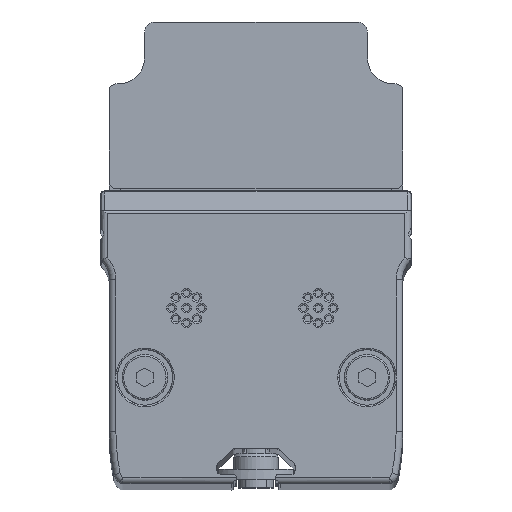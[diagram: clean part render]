
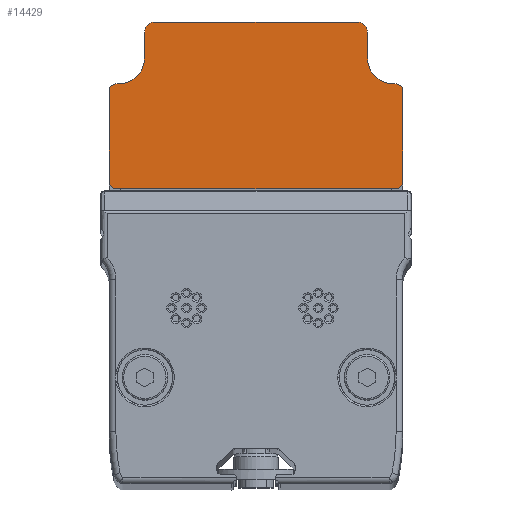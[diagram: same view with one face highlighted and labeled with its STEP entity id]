
A CAD part, top view. The second image highlights one B-rep face of the part: STEP entity #14429.
In plain terms, the highlighted planar face has unit normal (0, 0, 1).
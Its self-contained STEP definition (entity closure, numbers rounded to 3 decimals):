
#48 = VERTEX_POINT ( 'NONE', #30250 ) ;
#378 = CARTESIAN_POINT ( 'NONE',  ( -21.5, 38.9, 504. ) ) ;
#515 = DIRECTION ( 'NONE',  ( 1., 0., 0. ) ) ;
#731 = DIRECTION ( 'NONE',  ( -1., 0., 0. ) ) ;
#820 = VERTEX_POINT ( 'NONE', #19735 ) ;
#1069 = VERTEX_POINT ( 'NONE', #16534 ) ;
#1152 = ORIENTED_EDGE ( 'NONE', *, *, #23504, .T. ) ;
#1811 = VERTEX_POINT ( 'NONE', #6976 ) ;
#2703 = EDGE_CURVE ( 'NONE', #8934, #1811, #29946, .T. ) ;
#2734 = LINE ( 'NONE', #18293, #21234 ) ;
#2840 = VECTOR ( 'NONE', #27940, 1000. ) ;
#3180 = LINE ( 'NONE', #8148, #17644 ) ;
#3193 = EDGE_CURVE ( 'NONE', #20286, #4802, #18379, .T. ) ;
#3320 = CARTESIAN_POINT ( 'NONE',  ( -21.5, 23.8, 504. ) ) ;
#3439 = VECTOR ( 'NONE', #731, 1000. ) ;
#3889 = DIRECTION ( 'NONE',  ( -1., 0., 0. ) ) ;
#4584 = VERTEX_POINT ( 'NONE', #30027 ) ;
#4801 = EDGE_CURVE ( 'NONE', #11047, #7369, #28688, .T. ) ;
#4802 = VERTEX_POINT ( 'NONE', #26376 ) ;
#5551 = ORIENTED_EDGE ( 'NONE', *, *, #27766, .T. ) ;
#5598 = LINE ( 'NONE', #13543, #11995 ) ;
#5804 = DIRECTION ( 'NONE',  ( 0., 0., -1. ) ) ;
#6976 = CARTESIAN_POINT ( 'NONE',  ( 17.1, 46.8, 504. ) ) ;
#7369 = VERTEX_POINT ( 'NONE', #16178 ) ;
#7852 = CARTESIAN_POINT ( 'NONE',  ( 21.5, 37.9, 504. ) ) ;
#7928 = EDGE_LOOP ( 'NONE', ( #31942, #28934, #10491, #18618, #28007, #1152, #11612, #15065, #15520, #25418, #21659, #27385, #9660, #12638, #5551, #30959 ) ) ;
#8148 = CARTESIAN_POINT ( 'NONE',  ( 22.5, 0., 504. ) ) ;
#8175 = VERTEX_POINT ( 'NONE', #24157 ) ;
#8282 = EDGE_CURVE ( 'NONE', #1811, #14167, #10064, .T. ) ;
#8337 = PLANE ( 'NONE',  #16950 ) ;
#8416 = CARTESIAN_POINT ( 'NONE',  ( 0., 38.9, 504. ) ) ;
#8934 = VERTEX_POINT ( 'NONE', #13122 ) ;
#9660 = ORIENTED_EDGE ( 'NONE', *, *, #22075, .T. ) ;
#9811 = LINE ( 'NONE', #19921, #16010 ) ;
#9985 = CARTESIAN_POINT ( 'NONE',  ( -17.1, 42.9, 504. ) ) ;
#10042 = CARTESIAN_POINT ( 'NONE',  ( 22.5, 23.8, 504. ) ) ;
#10064 = LINE ( 'NONE', #27786, #2840 ) ;
#10491 = ORIENTED_EDGE ( 'NONE', *, *, #32657, .F. ) ;
#11047 = VERTEX_POINT ( 'NONE', #24529 ) ;
#11130 = CARTESIAN_POINT ( 'NONE',  ( 0., 0., 504. ) ) ;
#11575 = DIRECTION ( 'NONE',  ( 1., 0., 0. ) ) ;
#11612 = ORIENTED_EDGE ( 'NONE', *, *, #28636, .T. ) ;
#11914 = DIRECTION ( 'NONE',  ( 0., 0., 1. ) ) ;
#11995 = VECTOR ( 'NONE', #25775, 1000. ) ;
#12638 = ORIENTED_EDGE ( 'NONE', *, *, #13676, .F. ) ;
#13122 = CARTESIAN_POINT ( 'NONE',  ( 15.5, 48.4, 504. ) ) ;
#13173 = VERTEX_POINT ( 'NONE', #9985 ) ;
#13295 = DIRECTION ( 'NONE',  ( 0., 0., 1. ) ) ;
#13377 = EDGE_CURVE ( 'NONE', #13699, #21514, #13467, .T. ) ;
#13467 = CIRCLE ( 'NONE', #15067, 1. ) ;
#13543 = CARTESIAN_POINT ( 'NONE',  ( -22.5, 0., 504. ) ) ;
#13676 = EDGE_CURVE ( 'NONE', #8175, #48, #17728, .T. ) ;
#13699 = VERTEX_POINT ( 'NONE', #378 ) ;
#13837 = AXIS2_PLACEMENT_3D ( 'NONE', #29587, #11914, #11575 ) ;
#14167 = VERTEX_POINT ( 'NONE', #24090 ) ;
#14186 = DIRECTION ( 'NONE',  ( 0., 0., -1. ) ) ;
#14429 = ADVANCED_FACE ( 'NONE', ( #30992 ), #8337, .T. ) ;
#14929 = EDGE_CURVE ( 'NONE', #820, #20286, #30651, .T. ) ;
#15065 = ORIENTED_EDGE ( 'NONE', *, *, #14929, .T. ) ;
#15067 = AXIS2_PLACEMENT_3D ( 'NONE', #25860, #13295, #28347 ) ;
#15313 = DIRECTION ( 'NONE',  ( 0., 0., 1. ) ) ;
#15520 = ORIENTED_EDGE ( 'NONE', *, *, #3193, .T. ) ;
#15788 = CARTESIAN_POINT ( 'NONE',  ( 0., 48.4, 504. ) ) ;
#16003 = EDGE_CURVE ( 'NONE', #13699, #1069, #2734, .T. ) ;
#16010 = VECTOR ( 'NONE', #23054, 1000. ) ;
#16089 = AXIS2_PLACEMENT_3D ( 'NONE', #3320, #23183, #515 ) ;
#16178 = CARTESIAN_POINT ( 'NONE',  ( -21.5, 22.8, 504. ) ) ;
#16313 = EDGE_CURVE ( 'NONE', #13173, #1069, #24907, .T. ) ;
#16534 = CARTESIAN_POINT ( 'NONE',  ( -21.1, 38.9, 504. ) ) ;
#16721 = DIRECTION ( 'NONE',  ( 0., 0., -1. ) ) ;
#16838 = CARTESIAN_POINT ( 'NONE',  ( 15.5, 46.8, 504. ) ) ;
#16950 = AXIS2_PLACEMENT_3D ( 'NONE', #11130, #18440, #28499 ) ;
#17121 = DIRECTION ( 'NONE',  ( 1., 0., 0. ) ) ;
#17644 = VECTOR ( 'NONE', #28321, 1000. ) ;
#17680 = CIRCLE ( 'NONE', #16089, 1. ) ;
#17728 = CIRCLE ( 'NONE', #23524, 1.6 ) ;
#18111 = AXIS2_PLACEMENT_3D ( 'NONE', #21831, #16721, #21341 ) ;
#18293 = CARTESIAN_POINT ( 'NONE',  ( 0., 38.9, 504. ) ) ;
#18379 = LINE ( 'NONE', #8416, #18566 ) ;
#18440 = DIRECTION ( 'NONE',  ( 0., 0., 1. ) ) ;
#18566 = VECTOR ( 'NONE', #28436, 1000. ) ;
#18618 = ORIENTED_EDGE ( 'NONE', *, *, #21383, .T. ) ;
#18716 = CARTESIAN_POINT ( 'NONE',  ( 21.5, 38.9, 504. ) ) ;
#19481 = DIRECTION ( 'NONE',  ( -1., 0., 0. ) ) ;
#19735 = CARTESIAN_POINT ( 'NONE',  ( 22.5, 37.9, 504. ) ) ;
#19921 = CARTESIAN_POINT ( 'NONE',  ( -17.1, 0., 504. ) ) ;
#20286 = VERTEX_POINT ( 'NONE', #18716 ) ;
#21234 = VECTOR ( 'NONE', #25871, 1000. ) ;
#21341 = DIRECTION ( 'NONE',  ( 1., 0., 0. ) ) ;
#21383 = EDGE_CURVE ( 'NONE', #4584, #7369, #17680, .T. ) ;
#21514 = VERTEX_POINT ( 'NONE', #25435 ) ;
#21659 = ORIENTED_EDGE ( 'NONE', *, *, #8282, .F. ) ;
#21831 = CARTESIAN_POINT ( 'NONE',  ( 21.1, 42.9, 504. ) ) ;
#22067 = CARTESIAN_POINT ( 'NONE',  ( -21.1, 42.9, 504. ) ) ;
#22075 = EDGE_CURVE ( 'NONE', #8934, #48, #24035, .T. ) ;
#23054 = DIRECTION ( 'NONE',  ( 0., -1., 0. ) ) ;
#23183 = DIRECTION ( 'NONE',  ( 0., 0., 1. ) ) ;
#23504 = EDGE_CURVE ( 'NONE', #11047, #26017, #25982, .T. ) ;
#23524 = AXIS2_PLACEMENT_3D ( 'NONE', #28621, #5804, #25504 ) ;
#24035 = LINE ( 'NONE', #15788, #3439 ) ;
#24090 = CARTESIAN_POINT ( 'NONE',  ( 17.1, 42.9, 504. ) ) ;
#24157 = CARTESIAN_POINT ( 'NONE',  ( -17.1, 46.8, 504. ) ) ;
#24422 = CIRCLE ( 'NONE', #18111, 4. ) ;
#24529 = CARTESIAN_POINT ( 'NONE',  ( 21.5, 22.8, 504. ) ) ;
#24907 = CIRCLE ( 'NONE', #32296, 4. ) ;
#25212 = AXIS2_PLACEMENT_3D ( 'NONE', #16838, #14186, #19481 ) ;
#25418 = ORIENTED_EDGE ( 'NONE', *, *, #29039, .T. ) ;
#25435 = CARTESIAN_POINT ( 'NONE',  ( -22.5, 37.9, 504. ) ) ;
#25504 = DIRECTION ( 'NONE',  ( -1., 0., 0. ) ) ;
#25775 = DIRECTION ( 'NONE',  ( 0., 1., 0. ) ) ;
#25860 = CARTESIAN_POINT ( 'NONE',  ( -21.5, 37.9, 504. ) ) ;
#25871 = DIRECTION ( 'NONE',  ( 1., 0., 0. ) ) ;
#25982 = CIRCLE ( 'NONE', #13837, 1. ) ;
#26017 = VERTEX_POINT ( 'NONE', #10042 ) ;
#26376 = CARTESIAN_POINT ( 'NONE',  ( 21.1, 38.9, 504. ) ) ;
#27385 = ORIENTED_EDGE ( 'NONE', *, *, #2703, .F. ) ;
#27752 = VECTOR ( 'NONE', #3889, 1000. ) ;
#27766 = EDGE_CURVE ( 'NONE', #8175, #13173, #9811, .T. ) ;
#27786 = CARTESIAN_POINT ( 'NONE',  ( 17.1, 0., 504. ) ) ;
#27940 = DIRECTION ( 'NONE',  ( 0., -1., 0. ) ) ;
#28007 = ORIENTED_EDGE ( 'NONE', *, *, #4801, .F. ) ;
#28321 = DIRECTION ( 'NONE',  ( 0., 1., 0. ) ) ;
#28347 = DIRECTION ( 'NONE',  ( 1., 0., 0. ) ) ;
#28436 = DIRECTION ( 'NONE',  ( -1., 0., 0. ) ) ;
#28499 = DIRECTION ( 'NONE',  ( -1., 0., 0. ) ) ;
#28621 = CARTESIAN_POINT ( 'NONE',  ( -15.5, 46.8, 504. ) ) ;
#28636 = EDGE_CURVE ( 'NONE', #26017, #820, #3180, .T. ) ;
#28688 = LINE ( 'NONE', #29010, #27752 ) ;
#28934 = ORIENTED_EDGE ( 'NONE', *, *, #13377, .T. ) ;
#29010 = CARTESIAN_POINT ( 'NONE',  ( 0., 22.8, 504. ) ) ;
#29039 = EDGE_CURVE ( 'NONE', #4802, #14167, #24422, .T. ) ;
#29587 = CARTESIAN_POINT ( 'NONE',  ( 21.5, 23.8, 504. ) ) ;
#29814 = DIRECTION ( 'NONE',  ( 0., 0., -1. ) ) ;
#29946 = CIRCLE ( 'NONE', #25212, 1.6 ) ;
#30027 = CARTESIAN_POINT ( 'NONE',  ( -22.5, 23.8, 504. ) ) ;
#30250 = CARTESIAN_POINT ( 'NONE',  ( -15.5, 48.4, 504. ) ) ;
#30651 = CIRCLE ( 'NONE', #32248, 1. ) ;
#30831 = DIRECTION ( 'NONE',  ( 1., 0., 0. ) ) ;
#30959 = ORIENTED_EDGE ( 'NONE', *, *, #16313, .T. ) ;
#30992 = FACE_OUTER_BOUND ( 'NONE', #7928, .T. ) ;
#31942 = ORIENTED_EDGE ( 'NONE', *, *, #16003, .F. ) ;
#32248 = AXIS2_PLACEMENT_3D ( 'NONE', #7852, #15313, #30831 ) ;
#32296 = AXIS2_PLACEMENT_3D ( 'NONE', #22067, #29814, #17121 ) ;
#32657 = EDGE_CURVE ( 'NONE', #4584, #21514, #5598, .T. ) ;
